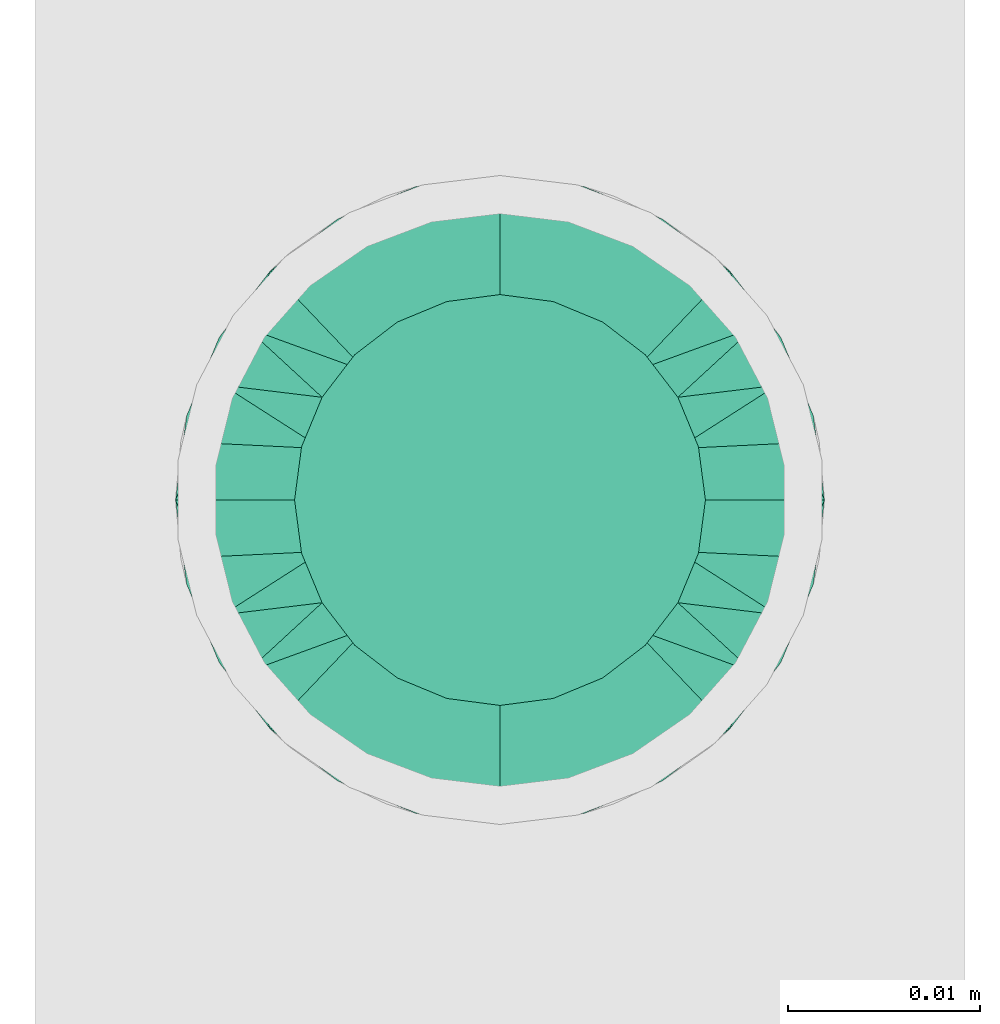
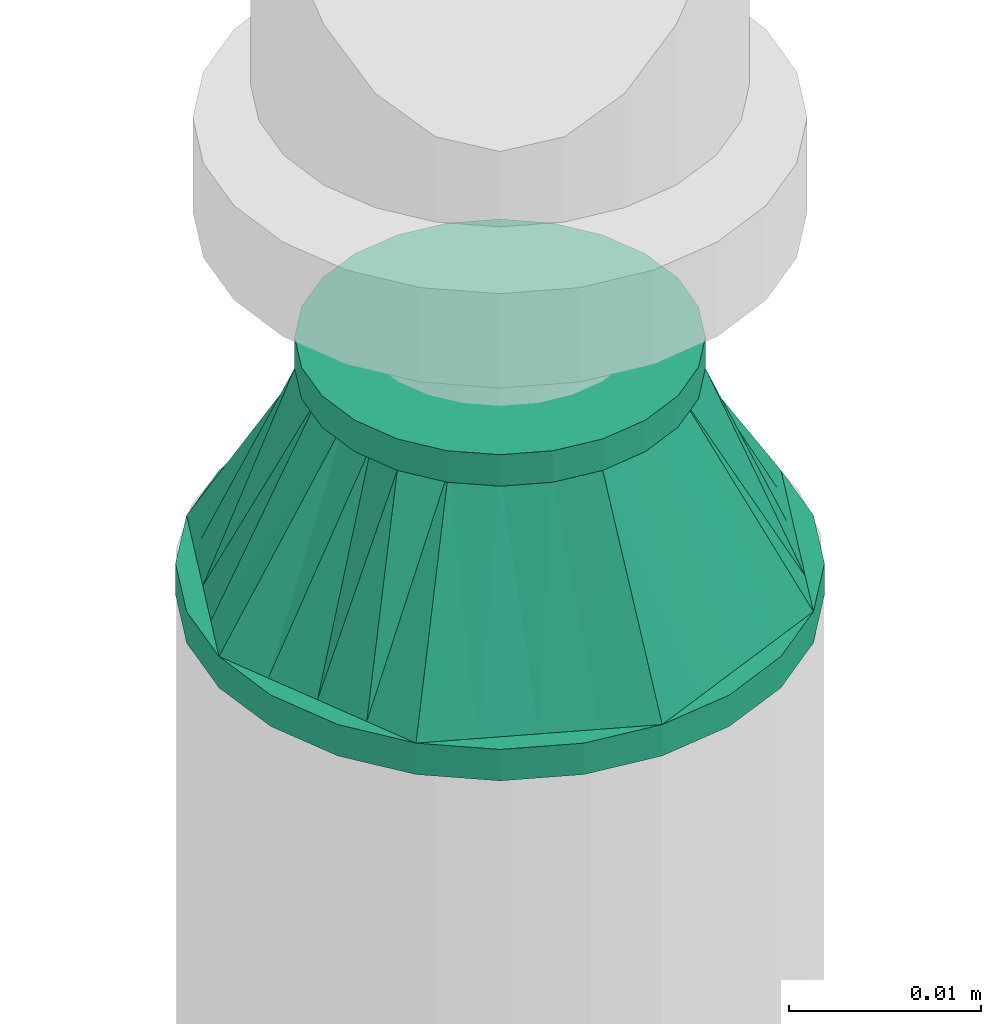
# One storey, part 44 of 63: 1 flow fitting.
"""IFC2X3 building model written with IfcOpenShell, lengths in millimetres."""

import ifcopenshell
import ifcopenshell.guid

model = None  # the IFC model being written
_history = None  # IfcOwnerHistory: only IFC2X3 demands one
_inside = {}  # id of a spatial element -> (the spatial element, [elements in it])
_under = {}  # id of a project, library or spatial element -> (it, [spatial elements below it])
_declared = {}  # id of a project -> (the project, [libraries it declares])
_typed = {}  # id of a type object -> (the type object, [elements of that type])
_made_of = {}  # id of a material, layer set ... -> (it, [elements and type objects made of it])


def new_model(schema):
    """Start an empty IFC model of exactly this schema.

    Asked for "IFC4X3", IfcOpenShell would pick the latest addendum, in which some entities
    have other attributes; the version numbers below select the first issue.
    IFC2X3 requires an IfcOwnerHistory on every rooted entity: one is made here for all.
    """
    global model, _history
    if schema == "IFC4X3":
        model = ifcopenshell.file(schema_version=(4, 3, 0, 0))
    else:
        model = ifcopenshell.file(schema=schema)
    _inside.clear()
    _under.clear()
    _declared.clear()
    _typed.clear()
    _made_of.clear()
    _history = None
    if model.schema == "IFC2X3":
        org = make("IfcOrganization", Name="unknown")
        user = make(
            "IfcPersonAndOrganization",
            ThePerson=make("IfcPerson", FamilyName="unknown"),
            TheOrganization=org,
        )
        app = make(
            "IfcApplication",
            ApplicationDeveloper=org,
            Version="unknown",
            ApplicationFullName="unknown",
            ApplicationIdentifier="unknown",
        )
        _history = make(
            "IfcOwnerHistory",
            OwningUser=user,
            OwningApplication=app,
            ChangeAction="ADDED",
            CreationDate=0,
        )
    return model


def make(cls, **values):
    """One entity of the class cls with the attributes given. An attribute that is None is left unset."""
    return model.create_entity(
        cls, **{name: value for name, value in values.items() if value is not None}
    )


def entity(cls, *values):
    """Any entity or typed value of the class cls, its attributes in the order of the schema. None: left unset."""
    e = model.create_entity(cls)
    for i, value in enumerate(values):
        if value is not None:
            e[i] = value
    return e


def rooted(cls, **values):
    """An entity with a GlobalId (a new one), such as an element, a storey or a relation."""
    return make(cls, GlobalId=ifcopenshell.guid.new(), OwnerHistory=_history, **values)


def si_unit(unit_type, name, prefix=None):
    """IfcSIUnit, for example si_unit("LENGTHUNIT", "METRE", prefix="MILLI")."""
    return make("IfcSIUnit", UnitType=unit_type, Prefix=prefix, Name=name)


def converted_unit(unit_type, name, factor, base, dimensions=None, offset=None):
    """IfcConversionBasedUnit, such as the inch: factor (a typed value) times the base unit."""
    return make(
        "IfcConversionBasedUnit"
        if offset is None
        else "IfcConversionBasedUnitWithOffset",
        ConversionOffset=offset,
        Dimensions=None
        if dimensions is None
        else entity("IfcDimensionalExponents", *dimensions),
        UnitType=unit_type,
        Name=name,
        ConversionFactor=make(
            "IfcMeasureWithUnit", ValueComponent=factor, UnitComponent=base
        ),
    )


def derived_unit(unit_type, elements):
    """IfcDerivedUnit: a product of units, each with its exponent."""
    return make(
        "IfcDerivedUnit",
        Elements=[
            make("IfcDerivedUnitElement", Unit=unit, Exponent=power)
            for unit, power in elements
        ],
        UnitType=unit_type,
    )


def assignment(units):
    """IfcUnitAssignment: the units of a project."""
    return None if units is None else make("IfcUnitAssignment", Units=units)


def point(xyz):
    """IfcCartesianPoint."""
    return None if xyz is None else make("IfcCartesianPoint", Coordinates=xyz)


def direction(xyz):
    """IfcDirection."""
    return None if xyz is None else make("IfcDirection", DirectionRatios=xyz)


def frame(location, z_axis=None, x_axis=None):
    """IfcAxis2Placement3D, a coordinate frame: its origin and axes. An axis left out is left unset."""
    return make(
        "IfcAxis2Placement3D",
        Location=point(location),
        Axis=direction(z_axis),
        RefDirection=direction(x_axis),
    )


def origin_with_axes():
    """The frame at (0, 0, 0) with the z axis (0, 0, 1) and the x axis (1, 0, 0) written out."""
    return frame((0.0, 0.0, 0.0), z_axis=(0.0, 0.0, 1.0), x_axis=(1.0, 0.0, 0.0))


def place(relative_to, where):
    """IfcLocalPlacement: puts the frame where relative to a parent placement (None: the world)."""
    return make(
        "IfcLocalPlacement", PlacementRelTo=relative_to, RelativePlacement=where
    )


def context(
    kind, dimensions, precision=None, world=None, true_north=None, identifier=None
):
    """IfcGeometricRepresentationContext, for example the 3D "Model" context."""
    return make(
        "IfcGeometricRepresentationContext",
        ContextIdentifier=identifier,
        ContextType=kind,
        CoordinateSpaceDimension=dimensions,
        Precision=precision,
        WorldCoordinateSystem=world,
        TrueNorth=true_north,
    )


def subcontext(parent, identifier, kind, view, scale=None):
    """IfcGeometricRepresentationSubContext, for example "Body" below "Model"."""
    return make(
        "IfcGeometricRepresentationSubContext",
        ContextIdentifier=identifier,
        ContextType=kind,
        ParentContext=parent,
        TargetScale=scale,
        TargetView=view,
    )


def project(units=None, contexts=None):
    """IfcProject with its units and contexts."""
    return rooted(
        "IfcProject",
        Name="project",
        RepresentationContexts=contexts,
        UnitsInContext=assignment(units),
    )


def spatial(cls, under=None, at=None, **own):
    """A site, building, storey or space (cls), placed at a placement, below another one or the project."""
    s = rooted(cls, ObjectPlacement=at, **own)
    if under is not None:
        _under.setdefault(under.id(), (under, []))[1].append(s)
    return s


def faces_of(points, faces, orient=None, outer=None):
    """IfcFace entities. A face is a list of loops; a loop is a list of indices into points, from 0.

    orient and outer hold one flag for each loop. By default every Orientation is true, the
    first loop of a face is its IfcFaceOuterBound and the others are IfcFaceBound.
    """
    made = []
    for i, loops in enumerate(faces):
        bounds = []
        for j, loop in enumerate(loops):
            is_outer = j == 0 if outer is None else outer[i][j]
            bounds.append(
                make(
                    "IfcFaceOuterBound" if is_outer else "IfcFaceBound",
                    Bound=make("IfcPolyLoop", Polygon=[points[k] for k in loop]),
                    Orientation=True if orient is None else orient[i][j],
                )
            )
        made.append(make("IfcFace", Bounds=bounds))
    return made


def open_shell(faces, orient=None, outer=None):
    """The faces of one IfcOpenShell. surface_model builds it on its shared points."""
    return ("IfcOpenShell", faces, orient, outer)


def surface_model(cls, points, shells):
    """IfcFaceBasedSurfaceModel or IfcShellBasedSurfaceModel (cls): surfaces that need not close."""
    shared = [point(p) for p in points]
    made = [make(c, CfsFaces=faces_of(shared, fs, o, b)) for c, fs, o, b in shells]
    if cls == "IfcFaceBasedSurfaceModel":
        return make(cls, FbsmFaces=made)
    return make(cls, SbsmBoundary=made)


def shape(context_of_items, identifier, shape_type, items):
    """IfcShapeRepresentation: the items that make up one representation, for example the "Body"."""
    return make(
        "IfcShapeRepresentation",
        ContextOfItems=context_of_items,
        RepresentationIdentifier=identifier,
        RepresentationType=shape_type,
        Items=items,
    )


def source(mapping_origin, context_of_items, identifier, shape_type, items):
    """IfcRepresentationMap: a shape defined once, which mapped items show again and again."""
    return make(
        "IfcRepresentationMap",
        MappingOrigin=mapping_origin,
        MappedRepresentation=shape(context_of_items, identifier, shape_type, items),
    )


def transform(
    local_origin,
    x_axis=None,
    y_axis=None,
    z_axis=None,
    scale=None,
    scale2=None,
    scale3=None,
    uniform=True,
):
    """IfcCartesianTransformationOperator3D, or its non-uniform kind. x_axis, y_axis, z_axis: its Axis1, 2, 3."""
    if uniform:
        return make(
            "IfcCartesianTransformationOperator3D",
            Axis1=direction(x_axis),
            Axis2=direction(y_axis),
            LocalOrigin=point(local_origin),
            Scale=scale,
            Axis3=direction(z_axis),
        )
    return make(
        "IfcCartesianTransformationOperator3DnonUniform",
        Axis1=direction(x_axis),
        Axis2=direction(y_axis),
        LocalOrigin=point(local_origin),
        Scale=scale,
        Axis3=direction(z_axis),
        Scale2=scale2,
        Scale3=scale3,
    )


def mapped(mapping_source, mapping_target):
    """IfcMappedItem: shows the shape of a source again, moved by a transform."""
    return make(
        "IfcMappedItem", MappingSource=mapping_source, MappingTarget=mapping_target
    )


def made_of(thing, what):
    """Note that an element or type object is made of a material, layer set ...; save() writes the relation."""
    if what is not None:
        _made_of.setdefault(what.id(), (what, []))[1].append(thing)
    return thing


def type_object(cls, material=None, **own):
    """A type object (cls), such as IfcWallType, which elements share."""
    return made_of(rooted(cls, **own), material)


def element(
    cls,
    number,
    at=None,
    inside=None,
    cuts=None,
    type_object=None,
    material=None,
    context=None,
    identifier="Body",
    shape_type=None,
    held_by="IfcProductDefinitionShape",
    body=None,
    shapes=None,
    **own,
):
    """One element of the class cls, such as IfcWall. Its Tag is "e" and its number.

    at: its placement. inside: the storey or other place that contains it. cuts: it is an
    opening in that element (IfcRelVoidsElement). A single representation is given by context,
    identifier, shape_type and body (its items); several are given by shapes. held_by: the class
    of the entity that holds the representations. save() writes the other relations.
    """
    e = rooted(cls, Tag="e%d" % number, ObjectPlacement=at, **own)
    if body is not None:
        shapes = [shape(context, identifier, shape_type, body)]
    if shapes is not None:
        e.Representation = make(held_by, Representations=shapes)
    if inside is not None:
        _inside.setdefault(inside.id(), (inside, []))[1].append(e)
    if cuts is not None:
        rooted(
            "IfcRelVoidsElement", RelatingBuildingElement=cuts, RelatedOpeningElement=e
        )
    if type_object is not None:
        _typed.setdefault(type_object.id(), (type_object, []))[1].append(e)
    return made_of(e, material)


def aggregate(whole, parts):
    """IfcRelAggregates: a whole, such as a stair, and the parts it consists of."""
    return rooted("IfcRelAggregates", RelatingObject=whole, RelatedObjects=parts)


def save(model, path):
    """Write the relations noted so far, then the file.

    IfcRelAggregates (storeys below a building ...), IfcRelContainedInSpatialStructure (elements
    in a storey), IfcRelDefinesByType, IfcRelAssociatesMaterial and IfcRelDeclares: one each for
    every whole, place, type object, material and project.
    """
    for whole, parts in _under.values():
        aggregate(whole, parts)
    for where, things in _inside.values():
        rooted(
            "IfcRelContainedInSpatialStructure",
            RelatedElements=things,
            RelatingStructure=where,
        )
    for kind, things in _typed.values():
        rooted("IfcRelDefinesByType", RelatedObjects=things, RelatingType=kind)
    for what, things in _made_of.values():
        rooted("IfcRelAssociatesMaterial", RelatedObjects=things, RelatingMaterial=what)
    for by, libraries in _declared.values():
        rooted("IfcRelDeclares", RelatingContext=by, RelatedDefinitions=libraries)
    model.write(path)


model = new_model("IFC2X3")

# Units and contexts
model_context = context("Model", 3, precision=0.01, world=frame((0.0, 4.29681676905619e-09, 0.0)), true_north=direction((4.01073788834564e-13, 1.0)))
plan_context = context("Plan", 3, precision=0.01, world=frame((0.0, 4.29681676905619e-09, 0.0)), true_north=direction((4.01073788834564e-13, 1.0)))
body_context = subcontext(model_context, "Body", "Model", "MODEL_VIEW")
ifc_project = project(units=[converted_unit("PLANEANGLEUNIT", "DEGREE", entity("IfcPositiveLengthMeasure", 0.0174532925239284), si_unit("PLANEANGLEUNIT", "RADIAN"), dimensions=[0, 0, 0, 0, 0, 0, 0]), si_unit("AREAUNIT", "SQUARE_METRE"), si_unit("LENGTHUNIT", "METRE", prefix="MILLI"), si_unit("MASSUNIT", "GRAM", prefix="KILO"), si_unit("POWERUNIT", "WATT"), si_unit("PRESSUREUNIT", "PASCAL", prefix="KILO"), si_unit("FORCEUNIT", "NEWTON", prefix="KILO"), si_unit("ELECTRICVOLTAGEUNIT", "VOLT"), si_unit("ELECTRICCURRENTUNIT", "AMPERE"), si_unit("THERMODYNAMICTEMPERATUREUNIT", "DEGREE_CELSIUS"), si_unit("TIMEUNIT", "SECOND"), si_unit("VOLUMEUNIT", "CUBIC_METRE"), derived_unit("LINEARVELOCITYUNIT", [(si_unit("LENGTHUNIT", "METRE"), 1), (si_unit("TIMEUNIT", "SECOND"), -1)]), derived_unit("VOLUMETRICFLOWRATEUNIT", [(si_unit("VOLUMEUNIT", "CUBIC_METRE"), 1), (si_unit("TIMEUNIT", "SECOND"), -1)]), derived_unit("THERMALTRANSMITTANCEUNIT", [(si_unit("POWERUNIT", "WATT"), 1), (si_unit("THERMODYNAMICTEMPERATUREUNIT", "KELVIN"), -1), (si_unit("AREAUNIT", "SQUARE_METRE"), -1)]), derived_unit("SOUNDPRESSUREUNIT", [(si_unit("PRESSUREUNIT", "PASCAL"), 1)])], contexts=[model_context, plan_context])

# Site, building, storey
site_placement = place(None, frame((0.0, -4.29681676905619e-09, 0.0), z_axis=(0.0, 0.0, 1.0), x_axis=(1.0, 0.0, 0.0)))
site = spatial("IfcSite", under=ifc_project, at=site_placement, CompositionType="ELEMENT")
building_placement = place(site_placement, frame((0.0, 4.29681676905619e-09, 0.0), z_axis=(0.0, 0.0, 1.0), x_axis=(1.0, 0.0, 0.0)))
building = spatial("IfcBuilding", under=site, at=building_placement, Name="mc-building", CompositionType="ELEMENT")
storey_placement = place(building_placement, frame((0.0, 0.0, 207370.0), z_axis=(0.0, 0.0, 1.0), x_axis=(1.0, 0.0, 0.0)))
storey = spatial("IfcBuildingStorey", under=building, at=storey_placement, Name="Nivå E", CompositionType="ELEMENT", Elevation=207370.0)

# Flow fitting
pipe_fitting_type = type_object("IfcPipeFittingType", Name="magi_pipe_fe_reducer_centric_short_NOR", PredefinedType="TRANSITION")
shared_shape = source(origin_with_axes(), body_context, "Body", "SurfaceModel", [
    surface_model("IfcShellBasedSurfaceModel", [(14.4, 5.35, -9.26647), (14.4, 0.0, -10.7), (14.4, 2.76936, -10.33541), (14.4, 10.33541, -2.76936), (14.4, 7.56604, -7.56604), (14.4, -10.33541, -2.76936), (14.4, 9.26647, -5.35), (14.4, 0.0, 10.7), (14.4, -5.35, -9.26647), (14.4, -2.76936, -10.33541), (14.4, -7.56604, -7.56604), (14.4, -9.26647, -5.35), (14.4, 10.7, 0.0), (14.4, 10.33541, 2.76936), (14.4, 9.26647, 5.35), (14.4, 7.56604, 7.56604), (14.4, 2.76936, 10.33541), (14.4, 5.35, 9.26647), (14.4, -10.33541, 2.76936), (14.4, -7.56604, 7.56604), (14.4, -9.26647, 5.35), (14.4, -10.7, 0.0), (14.4, -2.76936, 10.33541), (14.4, -5.35, 9.26647), (12.4, 2.76936, 10.33541), (12.4, -10.33541, -2.76936), (12.4, 0.0, 10.7), (12.4, 5.35, 9.26647), (12.4, 7.56604, 7.56604), (12.4, 9.26647, 5.35), (12.4, 10.33541, 2.76936), (12.4, -10.33541, 2.76936), (12.4, -2.76936, 10.33541), (12.4, -7.56604, 7.56604), (12.4, -5.35, 9.26647), (12.4, -9.26647, 5.35), (12.4, -10.7, 0.0), (12.4, 10.33541, -2.76936), (12.4, 5.35, -9.26647), (12.4, 9.26647, -5.35), (12.4, 7.56604, -7.56604), (12.4, 2.76936, -10.33541), (12.4, -9.26647, -5.35), (12.4, -5.35, -9.26647), (12.4, -7.56604, -7.56604), (12.4, 0.0, -10.7), (12.4, -2.76936, -10.33541), (12.4, 10.7, 0.0), (-2.0, 11.9501, 11.9501), (-2.0, 0.0, 16.9), (-2.0, 4.37404, 16.32415), (-2.0, 8.45, 14.63583), (-2.0, 14.63583, 8.45), (-2.0, 16.32415, 4.37404), (-2.0, -16.32415, 4.37404), (-2.0, -8.45, 14.63583), (-2.0, -14.63583, 8.45), (-2.0, -11.9501, 11.9501), (-2.0, -4.37404, 16.32415), (-2.0, -16.32415, -4.37404), (-2.0, -16.9, 0.0), (-2.0, -8.45, -14.63583), (-2.0, 16.32415, -4.37404), (-2.0, 11.9501, -11.9501), (-2.0, 14.63583, -8.45), (-2.0, 8.45, -14.63583), (-2.0, 4.37404, -16.32415), (-2.0, 0.0, -16.9), (-2.0, -11.9501, -11.9501), (-2.0, -14.63583, -8.45), (-2.0, -4.37404, -16.32415), (-2.0, 16.9, 0.0), (0.0, 4.37404, -16.32415), (0.0, 8.45, -14.63583), (0.0, 11.9501, -11.9501), (0.0, 0.0, -16.9), (0.0, 16.32415, -4.37404), (0.0, 16.32415, 4.37404), (0.0, 14.63583, -8.45), (0.0, -8.45, -14.63583), (0.0, -4.37404, -16.32415), (0.0, -11.9501, -11.9501), (0.0, -16.32415, -4.37404), (0.0, -14.63583, -8.45), (0.0, -16.32415, 4.37404), (0.0, 16.9, 0.0), (0.0, 14.63583, 8.45), (0.0, 11.9501, 11.9501), (0.0, 4.37404, 16.32415), (0.0, 8.45, 14.63583), (0.0, 0.0, 16.9), (0.0, -14.63583, 8.45), (0.0, -16.9, 0.0), (0.0, -8.45, 14.63583), (0.0, -11.9501, 11.9501), (0.0, -4.37404, 16.32415), (12.4, 9.3625, -2.31662), (0.0, 14.42505, -5.97505), (0.0, 15.66253, -2.98753), (12.4, -6.6875, -6.94985), (0.0, -13.18758, -8.96258), (0.0, 2.98753, -15.66253), (12.4, 0.0, -9.26647), (12.4, 6.6875, -6.94985), (0.0, 8.96258, -13.18758), (12.4, -9.3625, -2.31662), (0.0, -15.66253, -2.98753), (0.0, -14.42505, -5.97505), (0.0, 5.97505, -14.42505), (0.0, -2.98753, -15.66253), (0.0, -8.96258, -13.18758), (0.0, 13.18758, -8.96258), (12.4, 8.025, -4.63324), (12.4, -2.675, -9.26647), (12.4, 2.675, -9.26647), (0.0, -5.97505, -14.42505), (12.4, -8.025, -4.63324), (12.4, -9.3625, 2.31662), (0.0, -14.42505, 5.97505), (0.0, -15.66253, 2.98753), (12.4, 6.6875, 6.94985), (0.0, 13.18758, 8.96258), (0.0, -2.98753, 15.66253), (12.4, 0.0, 9.26647), (12.4, -6.6875, 6.94985), (0.0, -8.96258, 13.18758), (12.4, 9.3625, 2.31662), (0.0, 15.66253, 2.98753), (0.0, 14.42505, 5.97505), (0.0, -5.97505, 14.42505), (0.0, 2.98753, 15.66253), (0.0, 8.96258, 13.18758), (0.0, -13.18758, 8.96258), (12.4, -8.025, 4.63324), (12.4, 2.675, 9.26647), (12.4, -2.675, 9.26647), (0.0, 5.97505, 14.42505), (12.4, 8.025, 4.63324)], [open_shell([[[0, 1, 2]], [[3, 0, 4]], [[5, 0, 3]], [[3, 4, 6]], [[7, 5, 3]], [[1, 8, 9]], [[1, 0, 8]], [[10, 5, 11]], [[5, 10, 8]], [[0, 5, 8]], [[3, 12, 13]], [[13, 14, 15]], [[13, 15, 16]], [[7, 3, 16]], [[16, 15, 17]], [[7, 18, 5]], [[18, 19, 20]], [[21, 5, 18]], [[19, 22, 23]], [[22, 19, 18]], [[7, 22, 18]], [[13, 16, 3]], [[24, 25, 26]], [[27, 25, 24]], [[28, 29, 30]], [[28, 25, 27]], [[31, 26, 25]], [[32, 33, 34]], [[33, 32, 31]], [[33, 31, 35]], [[32, 26, 31]], [[31, 25, 36]], [[30, 37, 28]], [[25, 28, 37]], [[38, 37, 39]], [[37, 38, 25]], [[38, 39, 40]], [[41, 25, 38]], [[42, 43, 44]], [[43, 42, 25]], [[43, 45, 46]], [[43, 25, 41]], [[41, 45, 43]], [[37, 30, 47]], [[25, 5, 36]], [[42, 11, 25]], [[8, 44, 43]], [[42, 44, 10]], [[9, 43, 46]], [[25, 11, 5]], [[5, 21, 36]], [[9, 8, 43]], [[10, 44, 8]], [[10, 11, 42]], [[1, 9, 46]], [[46, 45, 1]], [[41, 2, 45]], [[38, 0, 41]], [[6, 40, 39]], [[38, 40, 4]], [[3, 39, 37]], [[38, 4, 0]], [[0, 2, 41]], [[12, 3, 37]], [[6, 39, 3]], [[6, 4, 40]], [[47, 12, 37]], [[45, 2, 1]], [[30, 13, 47]], [[29, 14, 30]], [[17, 28, 27]], [[29, 28, 15]], [[16, 27, 24]], [[30, 14, 13]], [[13, 12, 47]], [[16, 17, 27]], [[15, 28, 17]], [[15, 14, 29]], [[7, 16, 24]], [[24, 26, 7]], [[32, 22, 26]], [[34, 23, 32]], [[20, 33, 35]], [[34, 33, 19]], [[18, 35, 31]], [[34, 19, 23]], [[23, 22, 32]], [[21, 18, 31]], [[20, 35, 18]], [[20, 19, 33]], [[36, 21, 31]], [[26, 22, 7]], [[48, 49, 50]], [[48, 50, 51]], [[48, 52, 53]], [[48, 53, 49]], [[49, 53, 54]], [[55, 56, 57]], [[55, 58, 49]], [[56, 55, 49]], [[49, 54, 56]], [[54, 59, 60]], [[54, 53, 61]], [[53, 62, 63]], [[63, 62, 64]], [[63, 65, 66]], [[61, 53, 63]], [[67, 63, 66]], [[59, 68, 69]], [[68, 59, 61]], [[61, 67, 70]], [[59, 54, 61]], [[63, 67, 61]], [[53, 71, 62]], [[72, 73, 74]], [[75, 72, 74]], [[74, 76, 77]], [[76, 74, 78]], [[74, 77, 79]], [[75, 79, 80]], [[75, 74, 79]], [[81, 82, 83]], [[82, 81, 79]], [[79, 84, 82]], [[77, 76, 85]], [[77, 86, 87]], [[77, 87, 88]], [[88, 84, 79]], [[88, 87, 89]], [[84, 88, 90]], [[90, 91, 84]], [[92, 82, 84]], [[91, 93, 94]], [[91, 90, 93]], [[93, 90, 95]], [[79, 77, 88]], [[59, 82, 60]], [[69, 83, 59]], [[79, 68, 61]], [[69, 68, 81]], [[80, 61, 70]], [[59, 83, 82]], [[82, 92, 60]], [[80, 79, 61]], [[81, 68, 79]], [[81, 83, 69]], [[75, 80, 70]], [[70, 67, 75]], [[66, 72, 67]], [[65, 73, 66]], [[78, 63, 64]], [[65, 63, 74]], [[76, 64, 62]], [[65, 74, 73]], [[73, 72, 66]], [[85, 76, 62]], [[78, 64, 76]], [[78, 74, 63]], [[71, 85, 62]], [[67, 72, 75]], [[53, 77, 71]], [[52, 86, 53]], [[89, 48, 51]], [[52, 48, 87]], [[88, 51, 50]], [[53, 86, 77]], [[77, 85, 71]], [[88, 89, 51]], [[87, 48, 89]], [[87, 86, 52]], [[90, 88, 50]], [[50, 49, 90]], [[58, 95, 49]], [[55, 93, 58]], [[91, 57, 56]], [[55, 57, 94]], [[84, 56, 54]], [[55, 94, 93]], [[93, 95, 58]], [[92, 84, 54]], [[91, 56, 84]], [[91, 94, 57]], [[60, 92, 54]], [[49, 95, 90]], [[27, 34, 47]], [[47, 34, 43]], [[43, 38, 47]], [[43, 34, 36]], [[90, 87, 94]], [[92, 94, 87]], [[87, 74, 92]], [[75, 92, 74]], [[81, 92, 75]], [[74, 87, 85]], [[96, 97, 98]], [[81, 99, 100]], [[101, 102, 75]], [[98, 85, 47]], [[74, 103, 104]], [[104, 103, 38]], [[105, 106, 107]], [[38, 108, 104]], [[102, 109, 75]], [[110, 99, 81]], [[47, 96, 98]], [[103, 111, 112]], [[109, 102, 113]], [[36, 92, 106]], [[102, 101, 114]], [[110, 115, 43]], [[96, 112, 97]], [[107, 116, 105]], [[36, 106, 105]], [[113, 115, 109]], [[43, 115, 113]], [[116, 107, 100]], [[108, 38, 114]], [[111, 103, 74]], [[111, 97, 112]], [[99, 110, 43]], [[116, 100, 99]], [[101, 108, 114]], [[117, 118, 119]], [[87, 120, 121]], [[122, 123, 90]], [[119, 92, 36]], [[94, 124, 125]], [[125, 124, 34]], [[126, 127, 128]], [[34, 129, 125]], [[123, 130, 90]], [[131, 120, 87]], [[36, 117, 119]], [[124, 132, 133]], [[130, 123, 134]], [[47, 85, 127]], [[123, 122, 135]], [[131, 136, 27]], [[117, 133, 118]], [[128, 137, 126]], [[47, 127, 126]], [[134, 136, 130]], [[27, 136, 134]], [[137, 128, 121]], [[129, 34, 135]], [[132, 124, 94]], [[132, 118, 133]], [[120, 131, 27]], [[137, 121, 120]], [[122, 129, 135]]])]),
])
flow_fitting_placement = place(storey_placement, frame((728641.29045, 439411.81651, 3018.36794), z_axis=(1.0, 0.0, 0.0), x_axis=(0.0, 0.0, 1.0)))
element("IfcFlowFitting", 1, at=flow_fitting_placement, inside=storey, type_object=pipe_fitting_type, Name="magi_pipe_fe_reducer_centric_short_NOR", context=body_context, shape_type="MappedRepresentation", body=[
    mapped(shared_shape, transform((0.0, 0.0, 0.0), scale=1.0)),
])

save(model, "model.ifc")
